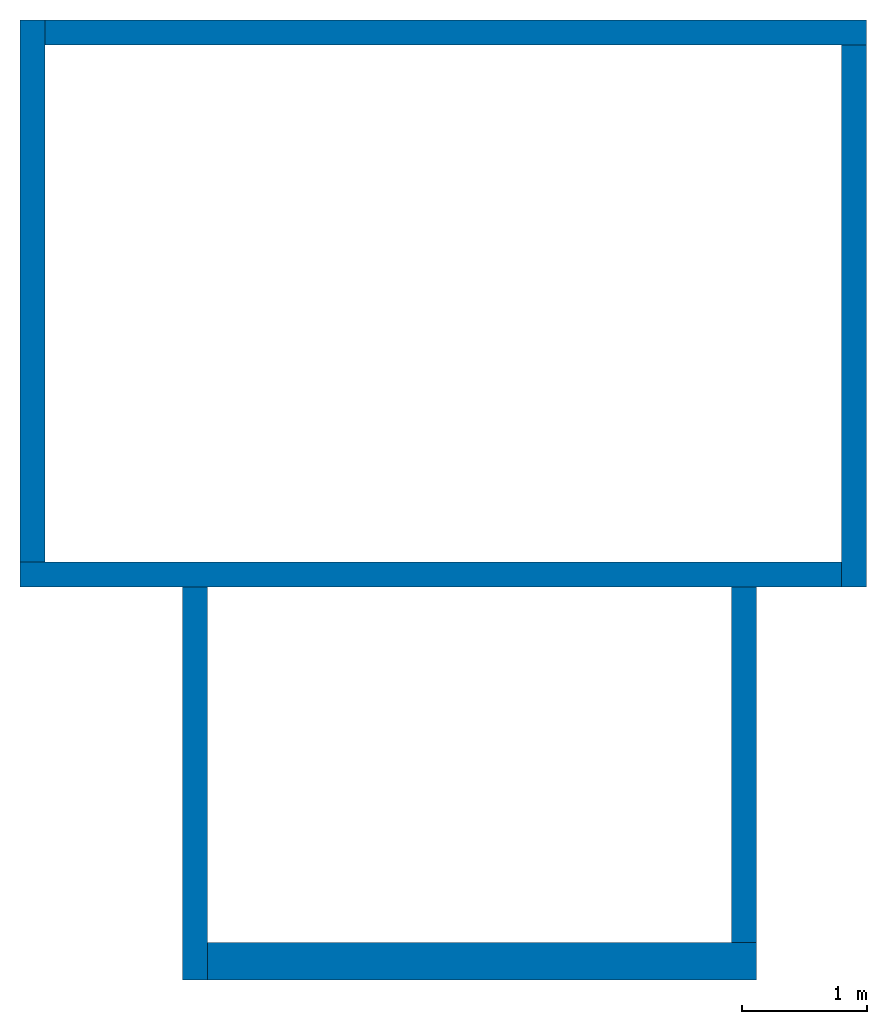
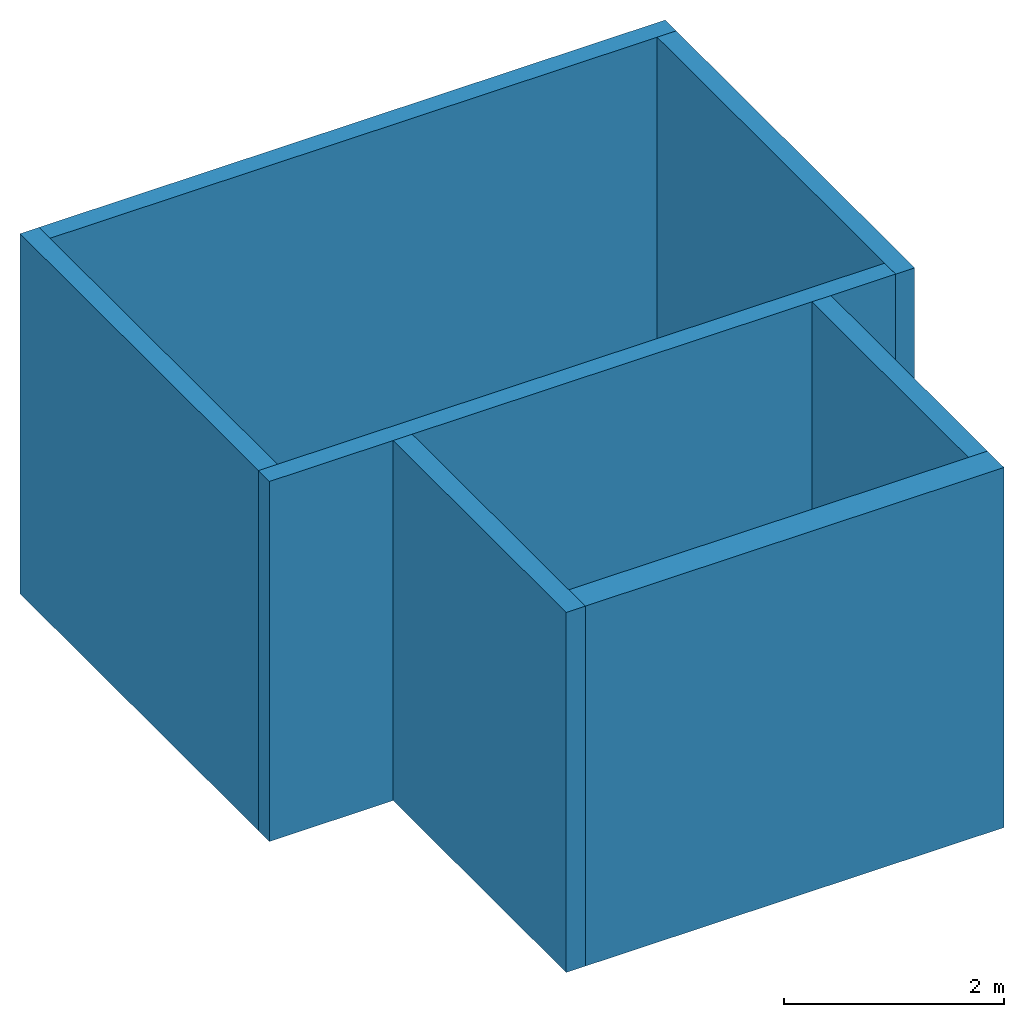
# One storey: 7 walls.
"""IFC2X3 building model written with IfcOpenShell, lengths in millimetres."""

from ifc_helpers import new_model, entity, si_unit, converted_unit, derived_unit, direction, frame, frame_2d, origin, place, context, subcontext, project, spatial, rectangle, extrude, material, layer, layer_set, layer_usage, type_object, element, save


model = new_model("IFC2X3")

# Units and contexts
model_context = context("Model", 3, precision=0.01, world=origin(), true_north=direction((6.12303176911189e-17, 1.0)))
context_of_model = context(None, 3, precision=0.01, world=origin(), true_north=direction((6.12303176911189e-17, 1.0)))
body_context = subcontext(model_context, "Body", "Model", "MODEL_VIEW")
ifc_project = project(units=[si_unit("LENGTHUNIT", "METRE", prefix="MILLI"), si_unit("AREAUNIT", "SQUARE_METRE"), si_unit("VOLUMEUNIT", "CUBIC_METRE"), converted_unit("PLANEANGLEUNIT", "DEGREE", entity("IfcRatioMeasure", 0.0174532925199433), si_unit("PLANEANGLEUNIT", "RADIAN"), dimensions=[0, 0, 0, 0, 0, 0, 0]), si_unit("MASSUNIT", "GRAM", prefix="KILO"), si_unit("TIMEUNIT", "SECOND"), si_unit("FREQUENCYUNIT", "HERTZ"), si_unit("THERMODYNAMICTEMPERATUREUNIT", "KELVIN"), derived_unit("THERMALTRANSMITTANCEUNIT", [(si_unit("MASSUNIT", "GRAM", prefix="KILO"), 1), (si_unit("THERMODYNAMICTEMPERATUREUNIT", "KELVIN"), -1), (si_unit("TIMEUNIT", "SECOND"), -3)]), derived_unit("VOLUMETRICFLOWRATEUNIT", [(si_unit("LENGTHUNIT", "METRE"), 3), (si_unit("TIMEUNIT", "SECOND"), -1)]), si_unit("ELECTRICCURRENTUNIT", "AMPERE"), si_unit("ELECTRICVOLTAGEUNIT", "VOLT"), si_unit("POWERUNIT", "WATT")], contexts=[model_context, context_of_model])

# Site, building, storey
site_placement = place(None, origin())
site = spatial("IfcSite", under=ifc_project, at=site_placement, Name="Default", CompositionType="ELEMENT")
building_placement = place(site_placement, origin())
building = spatial("IfcBuilding", under=site, at=building_placement, CompositionType="ELEMENT")
storey_placement = place(building_placement, origin())
storey = spatial("IfcBuildingStorey", under=building, at=storey_placement, Name="Level 1", CompositionType="ELEMENT", Elevation=0.0)

# Walls
ifc_material = material(Name="Default Wall")
ifc_layer_1 = layer(ifc_material, 200.0)
ifc_layer_set_1 = layer_set([ifc_layer_1], Name="Basic Wall:Wall 1")
ifc_layer_usage_1 = layer_usage(ifc_layer_set_1, "AXIS2", "NEGATIVE", 100.0)
wall_type_1 = type_object("IfcWallType", Name="Basic Wall:Wall 1", PredefinedType="STANDARD", material=ifc_layer_set_1)
wall_1_placement = place(storey_placement, frame((693.124246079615, 559.408926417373, 0.0)))
element("IfcWallStandardCase", 1, at=wall_1_placement, inside=storey, type_object=wall_type_1, material=ifc_layer_usage_1, Name="Basic Wall:Wall 1:2277", ObjectType="Basic Wall:Wall 1:1492", context=body_context, shape_type="SweptSolid", body=[
    extrude(rectangle(XDim=6580.0, YDim=200.0, at=frame_2d((3290.0, 0.0), x_axis=(-1.0, 0.0))), origin(), (0.0, 0.0, 1.0), 4000.0),
])
ifc_layer_usage_2 = layer_usage(ifc_layer_set_1, "AXIS2", "NEGATIVE", 100.0)
wall_2_placement = place(storey_placement, frame((793.124246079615, 4999.40892641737, 0.0), z_axis=(0.0, 0.0, 1.0), x_axis=(0.0, -1.0, 0.0)))
element("IfcWallStandardCase", 2, at=wall_2_placement, inside=storey, type_object=wall_type_1, material=ifc_layer_usage_2, Name="Basic Wall:Wall 1:2278", ObjectType="Basic Wall:Wall 1:1492", context=body_context, shape_type="SweptSolid", body=[
    extrude(rectangle(XDim=4340.0, YDim=200.0, at=frame_2d((2170.0, 0.0), x_axis=(-1.0, 0.0))), origin(), (0.0, 0.0, 1.0), 4000.0),
])
ifc_layer_usage_3 = layer_usage(ifc_layer_set_1, "AXIS2", "NEGATIVE", 100.0)
wall_3_placement = place(storey_placement, frame((7473.12424607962, 4899.40892641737, 0.0), z_axis=(0.0, 0.0, 1.0), x_axis=(-1.0, 0.0, 0.0)))
element("IfcWallStandardCase", 3, at=wall_3_placement, inside=storey, type_object=wall_type_1, material=ifc_layer_usage_3, Name="Basic Wall:Wall 1:2279", ObjectType="Basic Wall:Wall 1:1492", context=body_context, shape_type="SweptSolid", body=[
    extrude(rectangle(XDim=6580.0, YDim=200.0, at=frame_2d((3290.0, 0.0), x_axis=(-1.0, 0.0))), origin(), (0.0, 0.0, 1.0), 4000.0),
])
ifc_layer_usage_4 = layer_usage(ifc_layer_set_1, "AXIS2", "NEGATIVE", 100.0)
wall_4_placement = place(storey_placement, frame((7373.12424607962, 459.408926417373, 0.0), z_axis=(0.0, 0.0, 1.0), x_axis=(0.0, 1.0, 0.0)))
element("IfcWallStandardCase", 4, at=wall_4_placement, inside=storey, type_object=wall_type_1, material=ifc_layer_usage_4, Name="Basic Wall:Wall 1:2280", ObjectType="Basic Wall:Wall 1:1492", context=body_context, shape_type="SweptSolid", body=[
    extrude(rectangle(XDim=4340.0, YDim=200.0, at=frame_2d((2170.0, 0.0), x_axis=(-1.0, 0.0))), origin(), (0.0, 0.0, 1.0), 4000.0),
])
ifc_layer_usage_5 = layer_usage(ifc_layer_set_1, "AXIS2", "NEGATIVE", 100.0)
wall_5_placement = place(storey_placement, frame((2093.12424607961, 459.408926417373, 0.0), z_axis=(0.0, 0.0, 1.0), x_axis=(0.0, -1.0, 0.0)))
element("IfcWallStandardCase", 5, at=wall_5_placement, inside=storey, type_object=wall_type_1, material=ifc_layer_usage_5, Name="Basic Wall:Wall 1:2354", ObjectType="Basic Wall:Wall 1:1492", context=body_context, shape_type="SweptSolid", body=[
    extrude(rectangle(XDim=3150.0, YDim=200.0, at=frame_2d((1575.0, 5.6843418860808e-14), x_axis=(-1.0, 0.0))), origin(), (0.0, 0.0, 1.0), 4000.0),
])
ifc_layer_usage_6 = layer_usage(ifc_layer_set_1, "AXIS2", "NEGATIVE", 100.0)
wall_6_placement = place(storey_placement, frame((6493.12424607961, -2390.59107358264, 0.0), z_axis=(0.0, 0.0, 1.0), x_axis=(0.0, 1.0, 0.0)))
element("IfcWallStandardCase", 6, at=wall_6_placement, inside=storey, type_object=wall_type_1, material=ifc_layer_usage_6, Name="Basic Wall:Wall 1:2422", ObjectType="Basic Wall:Wall 1:1492", context=body_context, shape_type="SweptSolid", body=[
    extrude(rectangle(XDim=2850.00000000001, YDim=200.0, at=frame_2d((1425.00000000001, -2.1316282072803e-13), x_axis=(-1.0, 0.0))), origin(), (0.0, 0.0, 1.0), 4000.0),
])
ifc_layer_2 = layer(ifc_material, 100.0)
ifc_layer_3 = layer(ifc_material, 200.0)
ifc_layer_set_2 = layer_set([ifc_layer_2, ifc_layer_3], Name="Basic Wall:Wall 2")
ifc_layer_usage_7 = layer_usage(ifc_layer_set_2, "AXIS2", "NEGATIVE", 150.0)
wall_type_2 = type_object("IfcWallType", Name="Basic Wall:Wall 2", PredefinedType="STANDARD", material=ifc_layer_set_2)
wall_7_placement = place(storey_placement, frame((2193.12424607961, -2540.59107358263, 0.0)))
element("IfcWallStandardCase", 7, at=wall_7_placement, inside=storey, type_object=wall_type_2, material=ifc_layer_usage_7, Name="Basic Wall:Wall 2:2388", ObjectType="Basic Wall:Wall 2:2878", context=body_context, shape_type="SweptSolid", body=[
    extrude(rectangle(XDim=4400.0, YDim=300.0, at=frame_2d((2200.0, -7.105427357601e-14), x_axis=(-1.0, 0.0))), origin(), (0.0, 0.0, 1.0), 4000.0),
])

save(model, "model.ifc")
